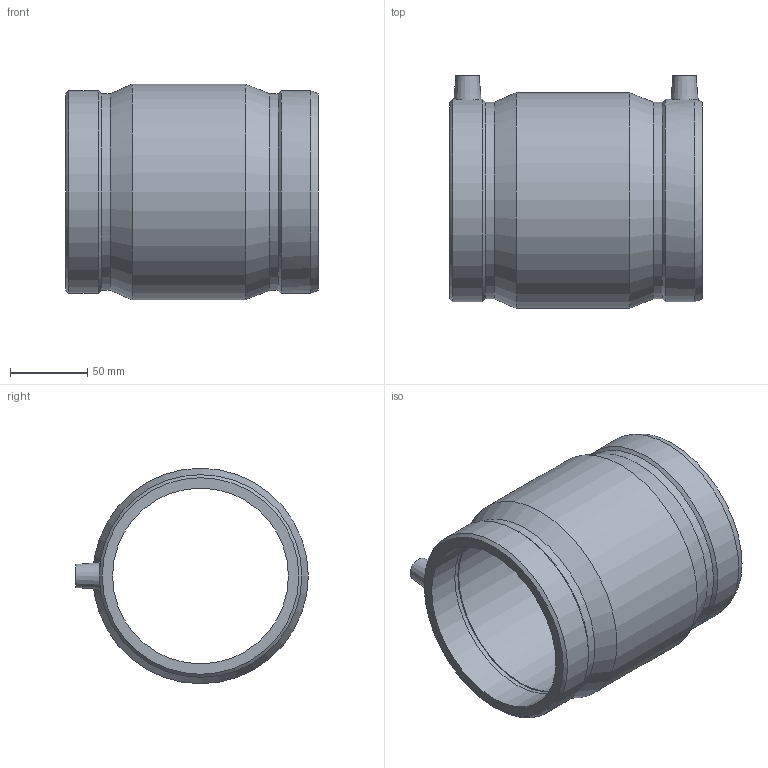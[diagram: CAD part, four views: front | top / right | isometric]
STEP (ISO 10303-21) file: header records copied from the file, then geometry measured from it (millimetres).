
FILE_DESCRIPTION(/* description */ ('PLASSON IPS COUPLER 4'''''),/* implementation_level */ '2;1');
FILE_NAME(/* name */ 'C:\Dropbox\KIMPROJECTS-Inventor 2019\99-16-3568-Processing Inch\ASTM ElectroFusion 2021\5901B\(_AS)5901B004040.ipt.stp',/* time_stamp */ '2021-08-30T09:48:33+03:00',/* author */ ('KIM'),/* organization */ (''),/* preprocessor_version */ 'ST-DEVELOPER v17.2',/* originating_system */ 'Autodesk Inventor 2019',/* authorisation */ '');
FILE_SCHEMA (('AUTOMOTIVE_DESIGN { 1 0 10303 214 3 1 1 }'));
Length unit declared in the file: inch
Products named in the file (1): *5901B004040
Bounding box: 164.08 x 151 x 139.95 mm (x, y, z)
Volume: 688697.5 mm3; surface area: 139146.4 mm2
Topology: 1 solids, 1 shells, 32 faces, 77 edges, 54 vertices
Faces by surface type: cylinder 12, plane 10, cone 10
Full cylindrical faces by diameter (mm): 4 x2, 10 x2, 114.1 x3, 127.61 x2, 131.557 x2, 139.954 x1
Entity records: 1086 total; most frequent: CARTESIAN_POINT 238, DIRECTION 188, ORIENTED_EDGE 154, AXIS2_PLACEMENT_3D 83, EDGE_CURVE 77, VERTEX_POINT 54, CIRCLE 50, EDGE_LOOP 41
